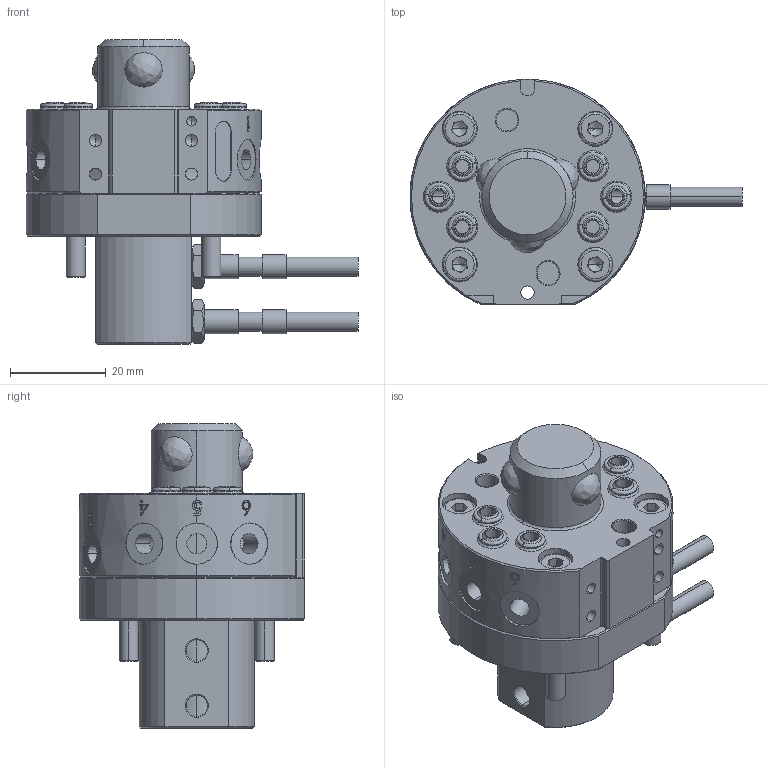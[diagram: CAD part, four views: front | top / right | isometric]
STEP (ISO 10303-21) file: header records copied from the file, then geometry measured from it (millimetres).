
FILE_DESCRIPTION (( 'STEP AP203' ), '1' );
FILE_NAME ('QCA-05R-SP.STEP', '2024-03-19T01:02:51', ( '微软用户' ), ( '微软中国' ), 'SwSTEP 2.0', 'SolidWorks 2018', '' );
FILE_SCHEMA (( 'CONFIG_CONTROL_DESIGN' ));
Length unit declared in the file: millimetre
Products named in the file (1): QCA-05R-SP
Bounding box: 69.2 x 47 x 63.5 mm (x, y, z)
Volume: 61432.8 mm3; surface area: 18382.8 mm2
Topology: 1 solids, 12 shells, 621 faces, 1441 edges, 909 vertices
Faces by surface type: plane 222, cylinder 218, cone 108, bspline 73
Entity records: 23021 total; most frequent: CARTESIAN_POINT 8975, DIRECTION 2924, ORIENTED_EDGE 2850, EDGE_CURVE 1425, AXIS2_PLACEMENT_3D 1148, VERTEX_POINT 909, EDGE_LOOP 732, VECTOR 628
